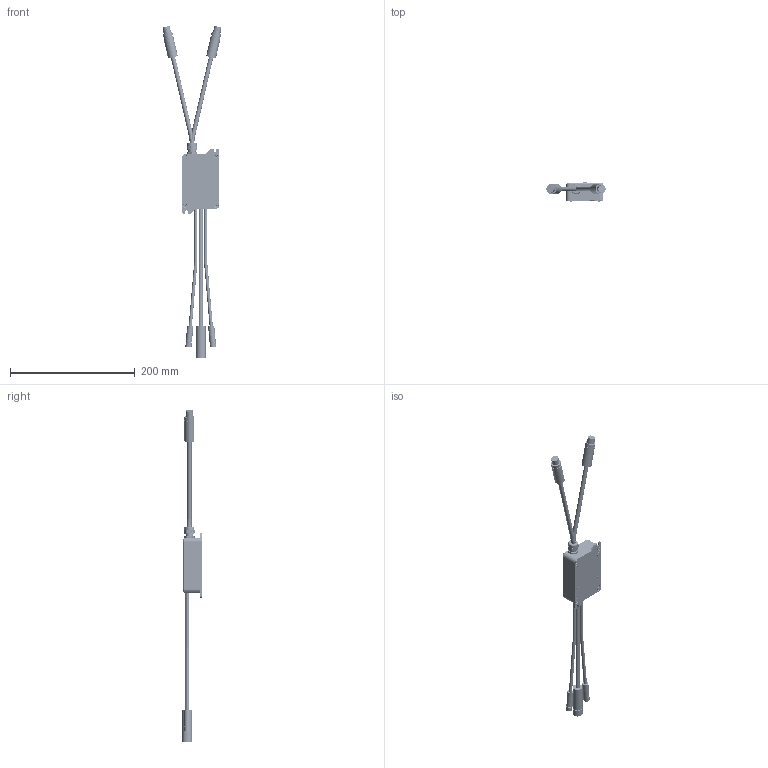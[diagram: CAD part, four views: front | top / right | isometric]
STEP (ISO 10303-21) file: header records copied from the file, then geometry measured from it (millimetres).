
FILE_DESCRIPTION (( 'STEP AP203' ), '1' );
FILE_NAME ('Z-EFG-50ECT諷秶碟.STEP', '2024-07-09T12:10:23', ( '' ), ( '' ), 'SwSTEP 2.0', 'SolidWorks 2022', '' );
FILE_SCHEMA (( 'CONFIG_CONTROL_DESIGN' ));
Products named in the file (12): Z-EFG-50ECT諷秶碟; 3BF000-4PAH200-001 4芯航插线（母头）; 3BF000-TFSK200-000  200mm萇埭盄; 3A0004-CMA1208-000 萇擢滅阨諉芛; 6A0100-C9C2010-000 堤盄揤啣; 3BB12P-0002000-000 12郋晊酗盄; PCB郪璃; hexagon socket countersunk head screws gb_GB_FASTENER_SCREWS_HSCHS M3X8-N; cross recessed cheese head screws gb_GB_CROSS_SCREWS_TYPE2 M3X5-5  H type-N; 6A0100-C9C2009-000 諷秶ん奻裔; 3BF000-4PAH200-000 4芯航插线（公头）; 6A0200-C9C2013-000 諷秶碟菁啣
Assembly tree (18 placements, depth 2):
  Z-EFG-50ECT諷秶碟
    6A0200-C9C2013-000 諷秶碟菁啣
    PCB郪璃
    6A0100-C9C2009-000 諷秶ん奻裔
    3BF000-TFSK200-000  200mm萇埭盄
    3BF000-4PAH200-000 4芯航插线（公头）
    3BF000-4PAH200-001 4芯航插线（母头）
    3A0004-CMA1208-000 萇擢滅阨諉芛
    6A0100-C9C2010-000 堤盄揤啣
    3BB12P-0002000-000 12郋晊酗盄  x2
    cross recessed cheese head screws gb_GB_CROSS_SCREWS_TYPE2 M3X5-5  H type-N  x4
    hexagon socket countersunk head screws gb_GB_FASTENER_SCREWS_HSCHS M3X8-N  x4
Bounding box: 95.05 x 32.42 x 531.98 mm (x, y, z)
Volume: 120324.8 mm3; surface area: 91971 mm2
Topology: 17 solids, 743 shells, 15756 faces, 42079 edges, 27878 vertices
Faces by surface type: plane 10480, cylinder 4664, bspline 526, cone 56, torus 30
Entity records: 491110 total; most frequent: CARTESIAN_POINT 95607, ORIENTED_EDGE 82114, DIRECTION 81297, EDGE_CURVE 41613, LINE 31483, VECTOR 31483, VERTEX_POINT 27597, AXIS2_PLACEMENT_3D 24907
